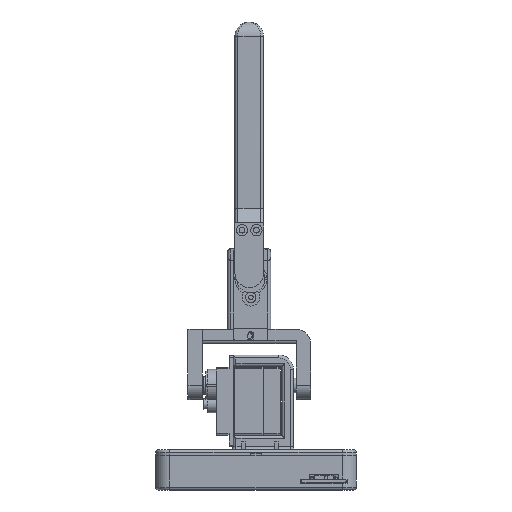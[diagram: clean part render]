
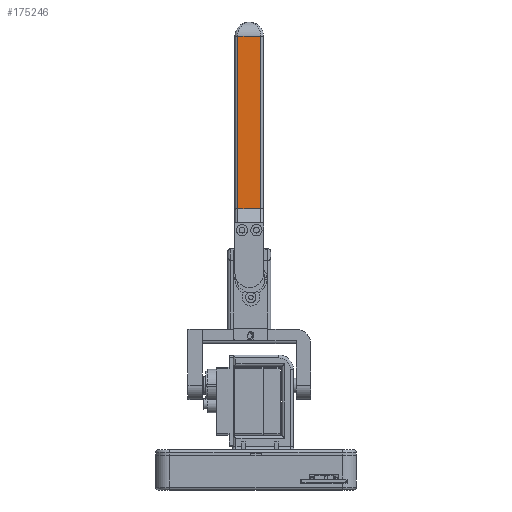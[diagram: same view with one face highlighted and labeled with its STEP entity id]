
A CAD part, front view. The second image highlights one B-rep face of the part: STEP entity #175246.
In plain terms, the highlighted planar face has unit normal (0, -1, 0).
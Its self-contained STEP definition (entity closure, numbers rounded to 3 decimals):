
#174377 = CYLINDRICAL_SURFACE('',#174378,1.);
#174378 = AXIS2_PLACEMENT_3D('',#174379,#174380,#174381);
#174379 = CARTESIAN_POINT('',(-6.35,-3.35,151.));
#174380 = DIRECTION('',(0.,0.,-1.));
#174381 = DIRECTION('',(-1.,0.,0.));
#174791 = CYLINDRICAL_SURFACE('',#174792,1.);
#174792 = AXIS2_PLACEMENT_3D('',#174793,#174794,#174795);
#174793 = CARTESIAN_POINT('',(1.65,-3.35,81.));
#174794 = DIRECTION('',(0.,0.,1.));
#174795 = DIRECTION('',(1.,0.,0.));
#175060 = PLANE('',#175061);
#175061 = AXIS2_PLACEMENT_3D('',#175062,#175063,#175064);
#175062 = CARTESIAN_POINT('',(-2.35,-4.35,86.));
#175063 = DIRECTION('',(0.,0.707,-0.707));
#175064 = DIRECTION('',(1.,0.,0.));
#175246 = ADVANCED_FACE('',(#175247),#175261,.F.);
#175247 = FACE_BOUND('',#175248,.T.);
#175248 = EDGE_LOOP('',(#175249,#175284,#175307,#175330));
#175249 = ORIENTED_EDGE('',*,*,#175250,.F.);
#175250 = EDGE_CURVE('',#175251,#175253,#175255,.T.);
#175251 = VERTEX_POINT('',#175252);
#175252 = CARTESIAN_POINT('',(-6.35,-4.35,146.));
#175253 = VERTEX_POINT('',#175254);
#175254 = CARTESIAN_POINT('',(1.65,-4.35,146.));
#175255 = SURFACE_CURVE('',#175256,(#175260,#175272),.PCURVE_S1.);
#175256 = LINE('',#175257,#175258);
#175257 = CARTESIAN_POINT('',(-7.35,-4.35,146.));
#175258 = VECTOR('',#175259,1.);
#175259 = DIRECTION('',(1.,0.,0.));
#175260 = PCURVE('',#175261,#175266);
#175261 = PLANE('',#175262);
#175262 = AXIS2_PLACEMENT_3D('',#175263,#175264,#175265);
#175263 = CARTESIAN_POINT('',(-2.35,-4.35,151.));
#175264 = DIRECTION('',(0.,1.,0.));
#175265 = DIRECTION('',(0.,0.,1.));
#175266 = DEFINITIONAL_REPRESENTATION('',(#175267),#175271);
#175267 = LINE('',#175268,#175269);
#175268 = CARTESIAN_POINT('',(-5.,-5.));
#175269 = VECTOR('',#175270,1.);
#175270 = DIRECTION('',(0.,1.));
#175271 = ( GEOMETRIC_REPRESENTATION_CONTEXT(2) 
PARAMETRIC_REPRESENTATION_CONTEXT() REPRESENTATION_CONTEXT('2D SPACE',''
  ) );
#175272 = PCURVE('',#175273,#175278);
#175273 = CYLINDRICAL_SURFACE('',#175274,5.);
#175274 = AXIS2_PLACEMENT_3D('',#175275,#175276,#175277);
#175275 = CARTESIAN_POINT('',(-2.35,0.65,146.));
#175276 = DIRECTION('',(-1.,0.,0.));
#175277 = DIRECTION('',(0.,0.,1.));
#175278 = DEFINITIONAL_REPRESENTATION('',(#175279),#175283);
#175279 = LINE('',#175280,#175281);
#175280 = CARTESIAN_POINT('',(4.712,5.));
#175281 = VECTOR('',#175282,1.);
#175282 = DIRECTION('',(0.,-1.));
#175283 = ( GEOMETRIC_REPRESENTATION_CONTEXT(2) 
PARAMETRIC_REPRESENTATION_CONTEXT() REPRESENTATION_CONTEXT('2D SPACE',''
  ) );
#175284 = ORIENTED_EDGE('',*,*,#175285,.T.);
#175285 = EDGE_CURVE('',#175251,#175286,#175288,.T.);
#175286 = VERTEX_POINT('',#175287);
#175287 = CARTESIAN_POINT('',(-6.35,-4.35,86.));
#175288 = SURFACE_CURVE('',#175289,(#175293,#175300),.PCURVE_S1.);
#175289 = LINE('',#175290,#175291);
#175290 = CARTESIAN_POINT('',(-6.35,-4.35,151.));
#175291 = VECTOR('',#175292,1.);
#175292 = DIRECTION('',(0.,0.,-1.));
#175293 = PCURVE('',#175261,#175294);
#175294 = DEFINITIONAL_REPRESENTATION('',(#175295),#175299);
#175295 = LINE('',#175296,#175297);
#175296 = CARTESIAN_POINT('',(0.,-4.));
#175297 = VECTOR('',#175298,1.);
#175298 = DIRECTION('',(-1.,0.));
#175299 = ( GEOMETRIC_REPRESENTATION_CONTEXT(2) 
PARAMETRIC_REPRESENTATION_CONTEXT() REPRESENTATION_CONTEXT('2D SPACE',''
  ) );
#175300 = PCURVE('',#174377,#175301);
#175301 = DEFINITIONAL_REPRESENTATION('',(#175302),#175306);
#175302 = LINE('',#175303,#175304);
#175303 = CARTESIAN_POINT('',(4.712,0.));
#175304 = VECTOR('',#175305,1.);
#175305 = DIRECTION('',(0.,1.));
#175306 = ( GEOMETRIC_REPRESENTATION_CONTEXT(2) 
PARAMETRIC_REPRESENTATION_CONTEXT() REPRESENTATION_CONTEXT('2D SPACE',''
  ) );
#175307 = ORIENTED_EDGE('',*,*,#175308,.T.);
#175308 = EDGE_CURVE('',#175286,#175309,#175311,.T.);
#175309 = VERTEX_POINT('',#175310);
#175310 = CARTESIAN_POINT('',(1.65,-4.35,86.));
#175311 = SURFACE_CURVE('',#175312,(#175316,#175323),.PCURVE_S1.);
#175312 = LINE('',#175313,#175314);
#175313 = CARTESIAN_POINT('',(-2.35,-4.35,86.));
#175314 = VECTOR('',#175315,1.);
#175315 = DIRECTION('',(1.,0.,0.));
#175316 = PCURVE('',#175261,#175317);
#175317 = DEFINITIONAL_REPRESENTATION('',(#175318),#175322);
#175318 = LINE('',#175319,#175320);
#175319 = CARTESIAN_POINT('',(-65.,0.));
#175320 = VECTOR('',#175321,1.);
#175321 = DIRECTION('',(0.,1.));
#175322 = ( GEOMETRIC_REPRESENTATION_CONTEXT(2) 
PARAMETRIC_REPRESENTATION_CONTEXT() REPRESENTATION_CONTEXT('2D SPACE',''
  ) );
#175323 = PCURVE('',#175060,#175324);
#175324 = DEFINITIONAL_REPRESENTATION('',(#175325),#175329);
#175325 = LINE('',#175326,#175327);
#175326 = CARTESIAN_POINT('',(0.,0.));
#175327 = VECTOR('',#175328,1.);
#175328 = DIRECTION('',(1.,0.));
#175329 = ( GEOMETRIC_REPRESENTATION_CONTEXT(2) 
PARAMETRIC_REPRESENTATION_CONTEXT() REPRESENTATION_CONTEXT('2D SPACE',''
  ) );
#175330 = ORIENTED_EDGE('',*,*,#175331,.F.);
#175331 = EDGE_CURVE('',#175253,#175309,#175332,.T.);
#175332 = SURFACE_CURVE('',#175333,(#175337,#175344),.PCURVE_S1.);
#175333 = LINE('',#175334,#175335);
#175334 = CARTESIAN_POINT('',(1.65,-4.35,146.));
#175335 = VECTOR('',#175336,1.);
#175336 = DIRECTION('',(0.,0.,-1.));
#175337 = PCURVE('',#175261,#175338);
#175338 = DEFINITIONAL_REPRESENTATION('',(#175339),#175343);
#175339 = LINE('',#175340,#175341);
#175340 = CARTESIAN_POINT('',(-5.,4.));
#175341 = VECTOR('',#175342,1.);
#175342 = DIRECTION('',(-1.,0.));
#175343 = ( GEOMETRIC_REPRESENTATION_CONTEXT(2) 
PARAMETRIC_REPRESENTATION_CONTEXT() REPRESENTATION_CONTEXT('2D SPACE',''
  ) );
#175344 = PCURVE('',#174791,#175345);
#175345 = DEFINITIONAL_REPRESENTATION('',(#175346),#175350);
#175346 = LINE('',#175347,#175348);
#175347 = CARTESIAN_POINT('',(4.712,65.));
#175348 = VECTOR('',#175349,1.);
#175349 = DIRECTION('',(0.,-1.));
#175350 = ( GEOMETRIC_REPRESENTATION_CONTEXT(2) 
PARAMETRIC_REPRESENTATION_CONTEXT() REPRESENTATION_CONTEXT('2D SPACE',''
  ) );
